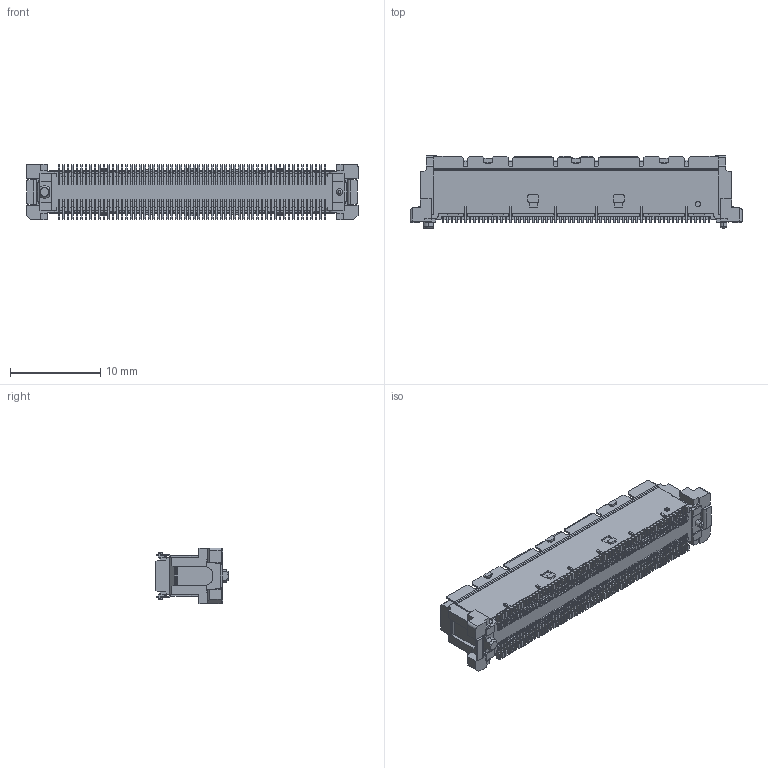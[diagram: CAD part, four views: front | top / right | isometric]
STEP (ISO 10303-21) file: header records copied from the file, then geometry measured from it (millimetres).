
FILE_DESCRIPTION (( 'STEP AP214' ), '1' );
FILE_NAME ('401-55401-5x_3D.STEP', '2018-03-26T10:54:40', ( '' ), ( '' ), 'SwSTEP 2.0', 'SolidWorks 2016', '' );
FILE_SCHEMA (( 'AUTOMOTIVE_DESIGN' ));
Length unit declared in the file: millimetre
Products named in the file (1): 401-55401-5x_3D
Bounding box: 36.8 x 8.05 x 6.2 mm (x, y, z)
Volume: 845.8 mm3; surface area: 1907.1 mm2
Topology: 1 solids, 1 shells, 5989 faces, 17631 edges, 11731 vertices
Faces by surface type: plane 3893, cylinder 2091, cone 5
Entity records: 264937 total; most frequent: CARTESIAN_POINT 36290, ORIENTED_EDGE 35262, DIRECTION 33220, EDGE_CURVE 17631, VECTOR 13402, LINE 13402, VERTEX_POINT 11731, AXIS2_PLACEMENT_3D 9909
